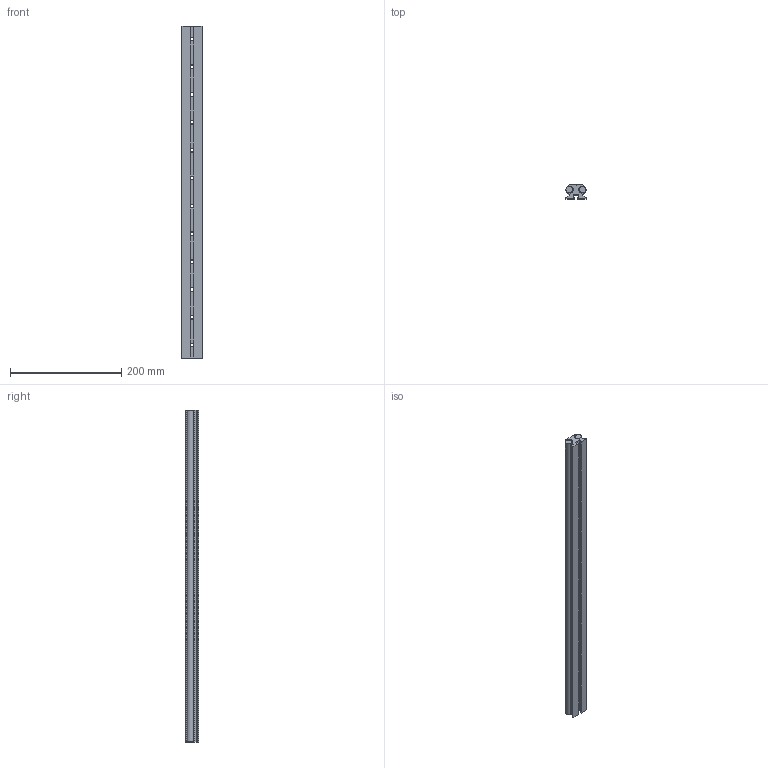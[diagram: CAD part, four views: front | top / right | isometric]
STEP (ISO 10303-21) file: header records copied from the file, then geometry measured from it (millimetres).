
FILE_DESCRIPTION (( 'STEP AP203' ), '1' );
FILE_NAME ('Linearführung_-_LFS-12-10 - L=596.step', '2011-07-19T09:13:37', ( 'HI' ), ( '' ), 'SwSTEP 2.0', 'SolidWorks 2010', '' );
FILE_SCHEMA (( 'CONFIG_CONTROL_DESIGN' ));
Length unit declared in the file: millimetre
Products named in the file (1): Linearführung_-_LFS-12-10 - L=596
Bounding box: 36 x 24.5 x 596 mm (x, y, z)
Volume: 383672.3 mm3; surface area: 148251.8 mm2
Topology: 1 solids, 1 shells, 314 faces, 852 edges, 558 vertices
Faces by surface type: cylinder 145, plane 121, cone 48
Entity records: 12791 total; most frequent: CARTESIAN_POINT 4677, ORIENTED_EDGE 1704, DIRECTION 1640, EDGE_CURVE 852, AXIS2_PLACEMENT_3D 617, VERTEX_POINT 558, EDGE_LOOP 412, VECTOR 406
